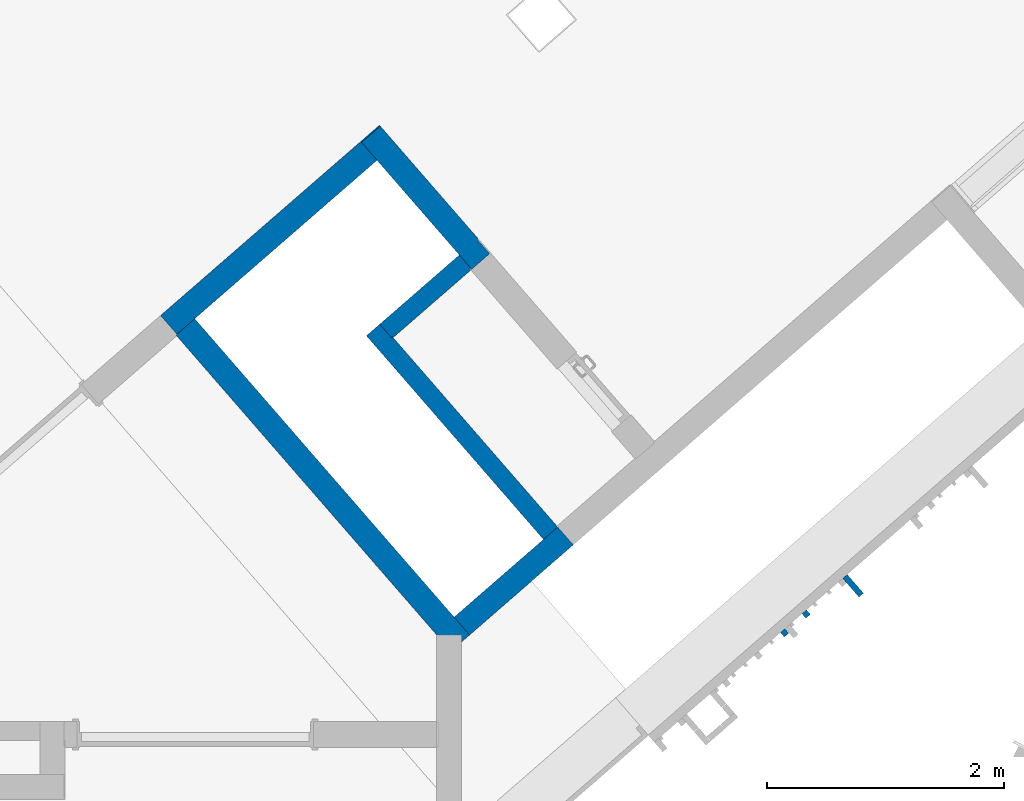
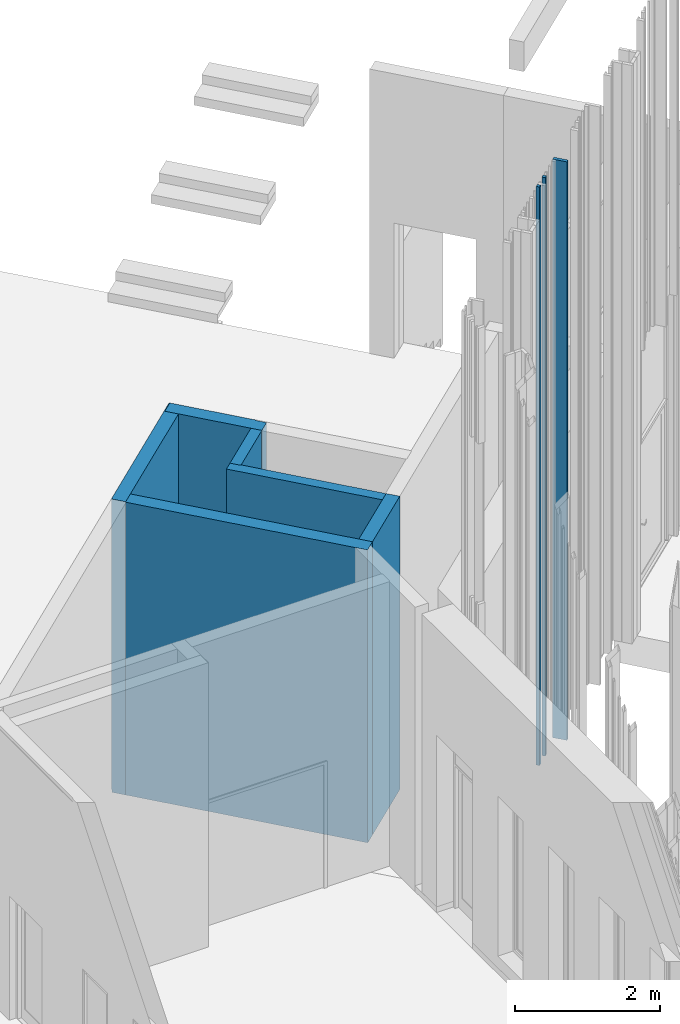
# One storey, part 198 of 390: 9 walls.
"""IFC2X3 building model written with IfcOpenShell, lengths in millimetres."""

from ifc_helpers import new_model, entity, si_unit, converted_unit, derived_unit, money_unit, direction, frame, origin_with_axes, place, context, subcontext, project, spatial, faceted_brep, material, material_list, type_object, element, save


model = new_model("IFC2X3")

# Units and contexts
model_context = context("Model", 3, precision=1e-05, world=origin_with_axes(), true_north=direction((0.0, 1.0)))
body_context = subcontext(model_context, "Body", "Model", "MODEL_VIEW")
ifc_project = project(units=[si_unit("LENGTHUNIT", "METRE", prefix="MILLI"), si_unit("AREAUNIT", "SQUARE_METRE"), si_unit("VOLUMEUNIT", "CUBIC_METRE"), converted_unit("PLANEANGLEUNIT", "DEGREE", entity("IfcPlaneAngleMeasure", 0.0174532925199), si_unit("PLANEANGLEUNIT", "RADIAN"), dimensions=[0, 0, 0, 0, 0, 0, 0]), si_unit("SOLIDANGLEUNIT", "STERADIAN"), money_unit("EUR"), converted_unit("TIMEUNIT", "Year", entity("IfcTimeMeasure", 31556926.0), si_unit("TIMEUNIT", "SECOND"), dimensions=[0, 0, 1, 0, 0, 0, 0]), si_unit("MASSUNIT", "GRAM", prefix="KILO"), si_unit("THERMODYNAMICTEMPERATUREUNIT", "DEGREE_CELSIUS"), si_unit("LUMINOUSINTENSITYUNIT", "LUMEN"), si_unit("ENERGYUNIT", "JOULE", prefix="MEGA"), derived_unit("THERMALCONDUCTANCEUNIT", [(si_unit("POWERUNIT", "WATT"), 1), (si_unit("LENGTHUNIT", "METRE"), -1), (si_unit("THERMODYNAMICTEMPERATUREUNIT", "KELVIN"), -1)]), derived_unit("SPECIFICHEATCAPACITYUNIT", [(si_unit("ENERGYUNIT", "JOULE"), 1), (si_unit("MASSUNIT", "GRAM", prefix="KILO"), -1), (si_unit("THERMODYNAMICTEMPERATUREUNIT", "KELVIN"), -1)]), derived_unit("MASSDENSITYUNIT", [(si_unit("MASSUNIT", "GRAM", prefix="KILO"), 1), (si_unit("VOLUMEUNIT", "CUBIC_METRE"), -1)])], contexts=[model_context])

# Site, building, storey
site_placement = place(None, origin_with_axes())
site = spatial("IfcSite", under=ifc_project, at=site_placement, Name="Site", CompositionType="ELEMENT")
building_placement = place(site_placement, origin_with_axes())
building = spatial("IfcBuilding", under=site, at=building_placement, Name="Building", CompositionType="ELEMENT")
storey_placement = place(building_placement, origin_with_axes())
storey = spatial("IfcBuildingStorey", under=building, at=storey_placement, Name="1 korrus", CompositionType="ELEMENT", Elevation=0.0)

# Walls
ifc_material_1 = material(Name="Raudbetoon - Konstruktsioon")
wall_type_1 = type_object("IfcWallType", Name="SS-12", PredefinedType="NOTDEFINED")
wall_1_placement = place(storey_placement, frame((140192.530313, 69058.0491013, -150.0), z_axis=(0.0, 0.0, 1.0), x_axis=(-0.754709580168, -0.656059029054, 0.0)))
element("IfcWall", 1, at=wall_1_placement, inside=storey, type_object=wall_type_1, material=ifc_material_1, Name="SS-12", context=body_context, shape_type="Brep", body=[
    faceted_brep([(1000.0000047, 200.0, 0.0), (1000.00000456, 0.0, 0.0), (-160.0, 0.0, 0.0), (-159.999999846, 200.0, 0.0), (1000.0000047, 200.0, 4950.0), (1000.00000456, 0.0, 4950.0), (-160.0, 0.0, 4950.0), (-159.999999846, 200.0, 4950.0)], [[[0, 1, 2, 3]], [[1, 0, 4, 5]], [[1, 5, 6, 2]], [[7, 3, 2, 6]], [[4, 0, 3, 7]], [[5, 4, 7, 6]]]),
])
ifc_material_2 = material(Name="Krohv - Lubjakivi")
ifc_material_list_1 = material_list([ifc_material_2, ifc_material_1])
wall_type_2 = type_object("IfcWallType", Name="SS-11", PredefinedType="NOTDEFINED")
wall_2_placement = place(storey_placement, frame((139437.820729, 68401.9900693, -150.0), z_axis=(0.0, 0.0, 1.0), x_axis=(-0.656059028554, 0.754709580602, 0.0)))
element("IfcWall", 2, at=wall_2_placement, inside=storey, type_object=wall_type_2, material=ifc_material_list_1, Name="SS-11", context=body_context, shape_type="Brep", body=[
    faceted_brep([(-200.000000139, 210.0, 50.0), (-200.000000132, 200.0, 50.0), (-200.000000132, 200.0, 4950.0), (-200.000000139, 210.0, 4950.0), (3339.99999451, 200.0, 50.0), (3339.99999441, 210.0, 50.0), (3339.99999645, 200.0, 4950.0), (3339.99999645, 210.0, 4950.0)], [[[0, 1, 2, 3]], [[4, 1, 0, 5]], [[1, 4, 6, 2]], [[6, 7, 3, 2]], [[5, 0, 3, 7]], [[4, 5, 7, 6]]]),
    faceted_brep([(3339.99999645, 0.0, 0.0), (-200.0, 0.0, 0.0), (-200.000000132, 200.0, 0.0), (3339.99999645, 200.0, 0.0), (3339.99999645, 0.0, 4950.0), (-200.0, 0.0, 4950.0), (-200.000000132, 200.0, 4950.0), (3339.99999645, 200.0, 4950.0)], [[[0, 1, 2, 3]], [[4, 5, 1, 0]], [[2, 1, 5, 6]], [[3, 2, 6, 7]], [[3, 7, 4, 0]], [[7, 6, 5, 4]]]),
])
ifc_material_list_2 = material_list([ifc_material_1, ifc_material_2])
wall_3_placement = place(storey_placement, frame((138786.519603, 72261.3660296, -150.0), z_axis=(0.0, 0.0, 1.0), x_axis=(-0.754709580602, -0.656059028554, 0.0)))
element("IfcWall", 3, at=wall_3_placement, inside=storey, type_object=wall_type_2, material=ifc_material_list_2, Name="SS-11", context=body_context, shape_type="Brep", body=[
    faceted_brep([(2240.43761971, -200.0, 4950.0), (2240.43761971, 0.0, 4950.0), (0.0, 0.0, 4950.0), (-5.96855898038e-10, -200.0, 4950.0), (2240.43761971, -200.0, 0.0), (2240.43761971, 0.0, 0.0), (0.0, 0.0, 0.0), (-5.96855898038e-10, -200.0, 0.0)], [[[0, 1, 2, 3]], [[0, 4, 5, 1]], [[1, 5, 6, 2]], [[3, 2, 6, 7]], [[4, 0, 3, 7]], [[5, 4, 7, 6]]]),
    faceted_brep([(2240.43761971, -200.0, 50.0), (-200.000000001, -200.0, 50.0), (-200.000000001, -200.0, 4950.0), (2240.43761971, -200.0, 4950.0), (-200.000000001, -210.0, 50.0), (2240.43761971, -210.0, 50.0), (-200.000000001, -210.0, 4950.0), (2240.43761971, -210.0, 4950.0)], [[[0, 1, 2, 3]], [[4, 1, 0, 5]], [[1, 4, 6, 2]], [[6, 7, 3, 2]], [[5, 0, 3, 7]], [[4, 5, 7, 6]]]),
])
wall_4_placement = place(storey_placement, frame((139481.944424, 71461.3712852, -150.0), z_axis=(0.0, 0.0, 1.0), x_axis=(-0.656059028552, 0.754709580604, 0.0)))
element("IfcWall", 4, at=wall_4_placement, inside=storey, type_object=wall_type_2, material=ifc_material_list_2, Name="SS-11", context=body_context, shape_type="Brep", body=[
    faceted_brep([(1260.00343044, 0.0, 4950.0), (-159.99999856, 0.0, 4950.0), (-159.999998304, -200.0, 4950.0), (1260.00343044, -200.0, 4950.0), (1260.00343044, 0.0, 0.0), (-159.99999856, 0.0, 0.0), (-159.999998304, -200.0, 0.0), (1260.00343044, -200.0, 0.0)], [[[0, 1, 2, 3]], [[4, 5, 1, 0]], [[2, 1, 5, 6]], [[3, 2, 6, 7]], [[3, 7, 4, 0]], [[7, 6, 5, 4]]]),
    faceted_brep([(1.69552549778e-06, -200.0, 50.0), (1.70829395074e-06, -210.0, 50.0), (1.70829395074e-06, -210.0, 4950.0), (1.69552549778e-06, -200.0, 4950.0), (1270.00343044, -210.0, 50.0), (1270.00343044, -200.0, 50.0), (1270.00343044, -210.0, 4950.0), (1270.00343044, -200.0, 4950.0)], [[[0, 1, 2, 3]], [[4, 1, 0, 5]], [[1, 4, 6, 2]], [[6, 7, 3, 2]], [[5, 0, 3, 7]], [[4, 5, 7, 6]]]),
])
ifc_material_3 = material(Name="Site specified")
wall_type_3 = type_object("IfcWallType", Name="Puitfassaadi ribistik", PredefinedType="NOTDEFINED")
for number, where, z_axis, x_axis, name in (
    (5, (142412.053626, 68427.5261744, 100.0), (0.0, 0.0, 1.0), (-0.754709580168, -0.656059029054, 0.0), "Site specified"),
    (6, (142230.168617, 68269.4159484, 100.0), (0.0, 0.0, 1.0), (-0.754709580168, -0.656059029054, 0.0), "Site specified"),
):
    element("IfcWall", number, at=place(storey_placement, frame(where, z_axis=z_axis, x_axis=x_axis)), inside=storey, type_object=wall_type_3, material=ifc_material_3, Name=name, context=body_context, shape_type="Brep", body=[
        faceted_brep([(-25.0, -25.0, 9765.0), (-25.0, -25.0, 0.0), (25.0, -25.0, 0.0), (25.0, -25.0, 9765.0), (-25.0, 25.0, 9765.0), (-25.0, 25.0, 0.0), (25.0, 25.0, 0.0), (25.0, 25.0, 9765.0)], [[[0, 1, 2, 3]], [[4, 5, 1, 0]], [[2, 1, 5, 6]], [[3, 2, 6, 7]], [[4, 0, 3, 7]], [[7, 6, 5, 4]]]),
    ])
wall_5_placement = place(storey_placement, frame((142808.357888, 68666.68968, 100.0), z_axis=(0.0, 0.0, 1.0), x_axis=(-0.754709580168, -0.656059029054, 0.0)))
element("IfcWall", 7, at=wall_5_placement, inside=storey, type_object=wall_type_3, material=ifc_material_3, Name="Site specified", context=body_context, shape_type="Brep", body=[
    faceted_brep([(-25.0, -104.5, 9765.0), (-25.0, -104.5, 0.0), (25.0, -104.5, 0.0), (25.0, -104.5, 9765.0), (-25.0, 104.5, 9765.0), (-25.0, 104.5, 0.0), (25.0, 104.5, 0.0), (25.0, 104.5, 9765.0)], [[[0, 1, 2, 3]], [[4, 5, 1, 0]], [[2, 1, 5, 6]], [[3, 2, 6, 7]], [[4, 0, 3, 7]], [[7, 6, 5, 4]]]),
])
ifc_material_4 = material(Name="Müüriplokk - Konstuktsioon")
ifc_material_list_3 = material_list([ifc_material_4, ifc_material_2])
wall_type_4 = type_object("IfcWallType", Name="SS-05", PredefinedType="NOTDEFINED")
wall_6_placement = place(storey_placement, frame((140323.742119, 68907.1071852, -150.0), z_axis=(0.0, 0.0, 1.0), x_axis=(-0.656059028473, 0.754709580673, 0.0)))
element("IfcWall", 8, at=wall_6_placement, inside=storey, type_object=wall_type_4, material=ifc_material_list_3, Name="SS-05", context=body_context, shape_type="Brep", body=[
    faceted_brep([(200.0, 8.43822078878e-05, 50.0), (200.000000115, -150.0, 50.0), (200.000004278, -150.0, 4950.0), (200.0, 0.0, 4950.0), (2479.99656567, -150.0, 50.0), (2479.99656547, -0.000181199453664, 50.0), (2479.99656567, -150.0, 4950.0), (2479.99656547, 0.0, 4950.0)], [[[0, 1, 2, 3]], [[4, 1, 0, 5]], [[1, 4, 6, 2]], [[6, 7, 3, 2]], [[5, 0, 3, 7]], [[4, 5, 7, 6]]]),
    faceted_brep([(210.000004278, -150.0, 50.0), (210.000004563, -160.0, 50.0), (210.000004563, -160.0, 4950.0), (210.000004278, -150.0, 4950.0), (2329.99656569, -160.0, 50.0), (2329.99656567, -150.0, 50.0), (2329.99656569, -160.0, 4950.0), (2329.99656567, -150.0, 4950.0)], [[[0, 1, 2, 3]], [[4, 1, 0, 5]], [[1, 4, 6, 2]], [[6, 7, 3, 2]], [[5, 0, 3, 7]], [[4, 5, 7, 6]]]),
])
ifc_material_list_4 = material_list([ifc_material_2, ifc_material_4])
wall_7_placement = place(storey_placement, frame((139640.433436, 71599.1436837, -150.0), z_axis=(0.0, 0.0, 1.0), x_axis=(-0.754709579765, -0.656059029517, 0.0)))
element("IfcWall", 9, at=wall_7_placement, inside=storey, type_object=wall_type_4, material=ifc_material_list_4, Name="SS-05", context=body_context, shape_type="Brep", body=[
    faceted_brep([(1090.43524087, 160.0, 50.0), (219.999995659, 160.0, 50.0), (219.999995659, 160.0, 4950.0), (1090.43524087, 160.0, 4950.0), (219.99999593, 150.0, 50.0), (1090.43524086, 150.0, 50.0), (219.99999593, 150.0, 4950.0), (1090.43524086, 150.0, 4950.0)], [[[0, 1, 2, 3]], [[4, 1, 0, 5]], [[1, 4, 6, 2]], [[7, 3, 2, 6]], [[5, 0, 3, 7]], [[4, 5, 7, 6]]]),
    faceted_brep([(1100.43524086, 150.0, 50.0), (210.000002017, 150.0, 50.0), (210.000002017, 150.0, 4950.0), (1100.43524086, 150.0, 4950.0), (210.000001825, 2.9939130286e-05, 50.0), (1100.43524065, -4.34833680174e-06, 50.0), (210.000001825, 0.0, 4950.0), (1100.43524065, 0.0, 4950.0)], [[[0, 1, 2, 3]], [[4, 1, 0, 5]], [[1, 4, 6, 2]], [[7, 3, 2, 6]], [[5, 0, 3, 7]], [[4, 5, 7, 6]]]),
])

save(model, "model.ifc")
